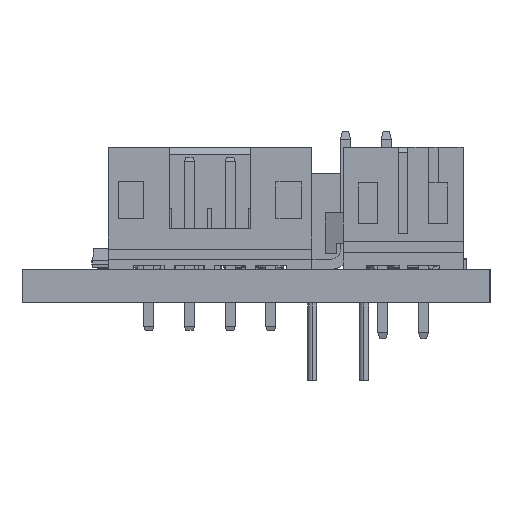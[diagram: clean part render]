
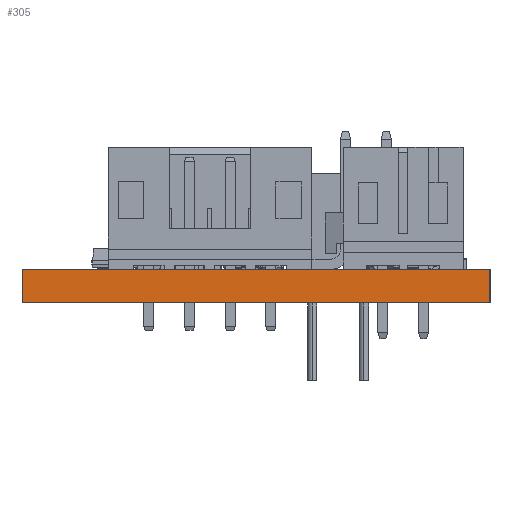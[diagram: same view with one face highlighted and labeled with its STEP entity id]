
A CAD part, left-side view. The second image highlights one B-rep face of the part: STEP entity #305.
In plain terms, the highlighted planar face has unit normal (-1, 0, 0).
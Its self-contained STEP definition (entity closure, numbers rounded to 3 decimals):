
#112 = EDGE_CURVE('',#113,#115,#117,.T.);
#113 = VERTEX_POINT('',#114);
#114 = CARTESIAN_POINT('',(0.,0.,0.));
#115 = VERTEX_POINT('',#116);
#116 = CARTESIAN_POINT('',(0.,0.,1.646));
#117 = LINE('',#118,#119);
#118 = CARTESIAN_POINT('',(0.,0.,0.));
#119 = VECTOR('',#120,1.);
#120 = DIRECTION('',(0.,0.,1.));
#280 = VERTEX_POINT('',#281);
#281 = CARTESIAN_POINT('',(0.,23.,1.646));
#287 = EDGE_CURVE('',#288,#280,#290,.T.);
#288 = VERTEX_POINT('',#289);
#289 = CARTESIAN_POINT('',(0.,23.,0.));
#290 = LINE('',#291,#292);
#291 = CARTESIAN_POINT('',(0.,23.,0.));
#292 = VECTOR('',#293,1.);
#293 = DIRECTION('',(0.,0.,1.));
#305 = ADVANCED_FACE('',(#306),#322,.F.);
#306 = FACE_BOUND('',#307,.F.);
#307 = EDGE_LOOP('',(#308,#309,#315,#316));
#308 = ORIENTED_EDGE('',*,*,#287,.T.);
#309 = ORIENTED_EDGE('',*,*,#310,.T.);
#310 = EDGE_CURVE('',#280,#115,#311,.T.);
#311 = LINE('',#312,#313);
#312 = CARTESIAN_POINT('',(0.,23.,1.646));
#313 = VECTOR('',#314,1.);
#314 = DIRECTION('',(0.,-1.,0.));
#315 = ORIENTED_EDGE('',*,*,#112,.F.);
#316 = ORIENTED_EDGE('',*,*,#317,.F.);
#317 = EDGE_CURVE('',#288,#113,#318,.T.);
#318 = LINE('',#319,#320);
#319 = CARTESIAN_POINT('',(0.,23.,0.));
#320 = VECTOR('',#321,1.);
#321 = DIRECTION('',(0.,-1.,0.));
#322 = PLANE('',#323);
#323 = AXIS2_PLACEMENT_3D('',#324,#325,#326);
#324 = CARTESIAN_POINT('',(0.,23.,0.));
#325 = DIRECTION('',(1.,0.,0.));
#326 = DIRECTION('',(0.,-1.,0.));
